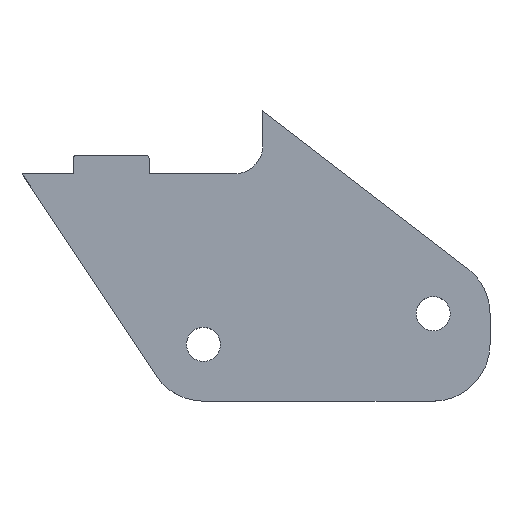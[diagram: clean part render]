
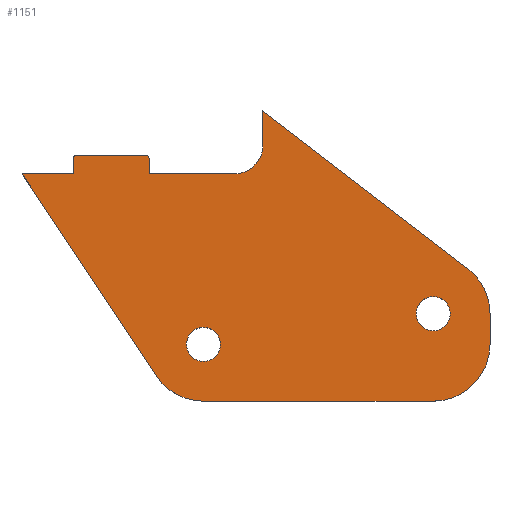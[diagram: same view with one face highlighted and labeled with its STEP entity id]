
A CAD part, top view. The second image highlights one B-rep face of the part: STEP entity #1151.
In plain terms, the highlighted planar face has unit normal (0, 0, 1).
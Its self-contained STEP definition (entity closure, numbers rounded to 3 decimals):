
#543=CIRCLE('',#1101,1.);
#544=CIRCLE('',#1105,7.5);
#546=CIRCLE('',#1108,1.);
#547=CIRCLE('',#1109,15.);
#548=CIRCLE('',#1110,15.);
#549=CIRCLE('',#1111,15.);
#550=CIRCLE('',#1112,4.5);
#551=CIRCLE('',#1113,4.5);
#586=ORIENTED_EDGE('',*,*,#781,.F.);
#587=ORIENTED_EDGE('',*,*,#794,.F.);
#588=ORIENTED_EDGE('',*,*,#795,.F.);
#589=ORIENTED_EDGE('',*,*,#796,.F.);
#590=ORIENTED_EDGE('',*,*,#797,.T.);
#591=ORIENTED_EDGE('',*,*,#798,.F.);
#592=ORIENTED_EDGE('',*,*,#799,.T.);
#593=ORIENTED_EDGE('',*,*,#800,.T.);
#594=ORIENTED_EDGE('',*,*,#801,.F.);
#595=ORIENTED_EDGE('',*,*,#802,.T.);
#596=ORIENTED_EDGE('',*,*,#803,.F.);
#597=ORIENTED_EDGE('',*,*,#804,.T.);
#598=ORIENTED_EDGE('',*,*,#791,.F.);
#599=ORIENTED_EDGE('',*,*,#790,.F.);
#600=ORIENTED_EDGE('',*,*,#787,.T.);
#601=ORIENTED_EDGE('',*,*,#784,.F.);
#602=ORIENTED_EDGE('',*,*,#805,.F.);
#603=ORIENTED_EDGE('',*,*,#806,.F.);
#673=VECTOR('',#887,1.);
#677=VECTOR('',#899,1.);
#680=VECTOR('',#904,1.);
#682=VECTOR('',#916,1.);
#683=VECTOR('',#917,1.);
#684=VECTOR('',#918,1.);
#685=VECTOR('',#921,1.);
#686=VECTOR('',#924,1.);
#687=VECTOR('',#927,1.);
#688=VECTOR('',#928,1.);
#709=LINE('',#998,#673);
#713=LINE('',#1010,#677);
#716=LINE('',#1016,#680);
#718=LINE('',#1027,#682);
#719=LINE('',#1029,#683);
#720=LINE('',#1031,#684);
#721=LINE('',#1035,#685);
#722=LINE('',#1039,#686);
#723=LINE('',#1043,#687);
#724=LINE('',#1044,#688);
#743=VERTEX_POINT('',#992);
#745=VERTEX_POINT('',#996);
#747=VERTEX_POINT('',#1001);
#749=VERTEX_POINT('',#1007);
#751=VERTEX_POINT('',#1013);
#752=VERTEX_POINT('',#1018);
#754=VERTEX_POINT('',#1024);
#755=VERTEX_POINT('',#1026);
#756=VERTEX_POINT('',#1028);
#757=VERTEX_POINT('',#1030);
#758=VERTEX_POINT('',#1032);
#759=VERTEX_POINT('',#1034);
#760=VERTEX_POINT('',#1036);
#761=VERTEX_POINT('',#1038);
#762=VERTEX_POINT('',#1040);
#763=VERTEX_POINT('',#1042);
#764=VERTEX_POINT('',#1045);
#765=VERTEX_POINT('',#1047);
#781=EDGE_CURVE('',#745,#743,#709,.T.);
#784=EDGE_CURVE('',#743,#747,#543,.T.);
#787=EDGE_CURVE('',#749,#747,#713,.T.);
#790=EDGE_CURVE('',#749,#751,#716,.T.);
#791=EDGE_CURVE('',#751,#752,#544,.T.);
#794=EDGE_CURVE('',#754,#745,#546,.T.);
#795=EDGE_CURVE('',#755,#754,#718,.T.);
#796=EDGE_CURVE('',#756,#755,#719,.T.);
#797=EDGE_CURVE('',#756,#757,#720,.T.);
#798=EDGE_CURVE('',#758,#757,#547,.T.);
#799=EDGE_CURVE('',#758,#759,#721,.T.);
#800=EDGE_CURVE('',#759,#760,#548,.T.);
#801=EDGE_CURVE('',#761,#760,#722,.T.);
#802=EDGE_CURVE('',#761,#762,#549,.T.);
#803=EDGE_CURVE('',#763,#762,#723,.T.);
#804=EDGE_CURVE('',#763,#752,#724,.T.);
#805=EDGE_CURVE('',#764,#764,#550,.T.);
#806=EDGE_CURVE('',#765,#765,#551,.T.);
#835=EDGE_LOOP('',(#586,#587,#588,#589,#590,#591,#592,#593,#594,#595,#596,
#597,#598,#599,#600,#601));
#836=EDGE_LOOP('',(#602));
#837=EDGE_LOOP('',(#603));
#861=FACE_BOUND('',#835,.T.);
#862=FACE_BOUND('',#836,.T.);
#863=FACE_BOUND('',#837,.T.);
#887=DIRECTION('',(18.,0.,0.));
#893=DIRECTION('',(0.,0.,-1.));
#894=DIRECTION('',(0.,-1.,0.));
#899=DIRECTION('',(0.,4.,0.));
#904=DIRECTION('',(22.5,0.,0.));
#907=DIRECTION('',(0.,0.,1.));
#908=DIRECTION('',(7.5,0.,0.));
#912=DIRECTION('',(0.,0.,1.));
#913=DIRECTION('',(0.,-1.,0.));
#914=DIRECTION('',(0.,0.,-1.));
#915=DIRECTION('',(0.,-1.,0.));
#916=DIRECTION('',(0.,4.,0.));
#917=DIRECTION('',(13.575,0.,0.));
#918=DIRECTION('',(35.413,-53.301,0.));
#919=DIRECTION('',(0.,0.,-1.));
#920=DIRECTION('',(0.,-15.,0.));
#921=DIRECTION('',(60.668,0.,0.));
#922=DIRECTION('',(0.,0.,1.));
#923=DIRECTION('',(0.,15.,0.));
#924=DIRECTION('',(0.,-8.092,0.));
#925=DIRECTION('',(0.,0.,1.));
#926=DIRECTION('',(0.,15.,0.));
#927=DIRECTION('',(54.152,-41.703,0.));
#928=DIRECTION('',(0.,-9.179,0.));
#929=DIRECTION('',(0.,0.,1.));
#930=DIRECTION('',(0.,-4.5,0.));
#931=DIRECTION('',(0.,0.,1.));
#932=DIRECTION('',(0.,-4.5,0.));
#992=CARTESIAN_POINT('',(6913.504,13791.36,8.));
#996=CARTESIAN_POINT('',(6895.504,13791.36,8.));
#998=CARTESIAN_POINT('',(6895.504,13791.36,8.));
#1001=CARTESIAN_POINT('',(6914.504,13790.36,8.));
#1004=CARTESIAN_POINT('',(6913.504,13790.36,8.));
#1007=CARTESIAN_POINT('',(6914.504,13786.36,8.));
#1010=CARTESIAN_POINT('',(6914.504,13786.36,8.));
#1013=CARTESIAN_POINT('',(6937.004,13786.36,8.));
#1016=CARTESIAN_POINT('',(6914.504,13786.36,8.));
#1018=CARTESIAN_POINT('',(6944.504,13793.86,8.));
#1019=CARTESIAN_POINT('',(6937.004,13793.86,8.));
#1023=CARTESIAN_POINT('',(0.,0.,8.));
#1024=CARTESIAN_POINT('',(6894.504,13790.36,8.));
#1025=CARTESIAN_POINT('',(6895.504,13790.36,8.));
#1026=CARTESIAN_POINT('',(6894.504,13786.36,8.));
#1027=CARTESIAN_POINT('',(6894.504,13786.36,8.));
#1028=CARTESIAN_POINT('',(6880.929,13786.36,8.));
#1029=CARTESIAN_POINT('',(6880.929,13786.36,8.));
#1030=CARTESIAN_POINT('',(6916.342,13733.059,8.));
#1031=CARTESIAN_POINT('',(6880.929,13786.36,8.));
#1032=CARTESIAN_POINT('',(6928.835,13726.36,8.));
#1033=CARTESIAN_POINT('',(6928.835,13741.36,8.));
#1034=CARTESIAN_POINT('',(6989.504,13726.36,8.));
#1035=CARTESIAN_POINT('',(6928.835,13726.36,8.));
#1036=CARTESIAN_POINT('',(7004.504,13741.36,8.));
#1037=CARTESIAN_POINT('',(6989.504,13741.36,8.));
#1038=CARTESIAN_POINT('',(7004.504,13749.452,8.));
#1039=CARTESIAN_POINT('',(7004.504,13749.452,8.));
#1040=CARTESIAN_POINT('',(6998.656,13761.336,8.));
#1041=CARTESIAN_POINT('',(6989.504,13749.452,8.));
#1042=CARTESIAN_POINT('',(6944.504,13803.039,8.));
#1043=CARTESIAN_POINT('',(6944.504,13803.039,8.));
#1044=CARTESIAN_POINT('',(6944.504,13803.039,8.));
#1045=CARTESIAN_POINT('',(6928.835,13736.86,8.));
#1046=CARTESIAN_POINT('',(6928.835,13741.36,8.));
#1047=CARTESIAN_POINT('',(6989.504,13744.952,8.));
#1048=CARTESIAN_POINT('',(6989.504,13749.452,8.));
#1101=AXIS2_PLACEMENT_3D('',#1004,#893,#894);
#1105=AXIS2_PLACEMENT_3D('',#1019,#907,#908);
#1107=AXIS2_PLACEMENT_3D('',#1023,#912,#913);
#1108=AXIS2_PLACEMENT_3D('',#1025,#914,#915);
#1109=AXIS2_PLACEMENT_3D('',#1033,#919,#920);
#1110=AXIS2_PLACEMENT_3D('',#1037,#922,#923);
#1111=AXIS2_PLACEMENT_3D('',#1041,#925,#926);
#1112=AXIS2_PLACEMENT_3D('',#1046,#929,#930);
#1113=AXIS2_PLACEMENT_3D('',#1048,#931,#932);
#1137=PLANE('',#1107);
#1151=ADVANCED_FACE('',(#861,#862,#863),#1137,.T.);
